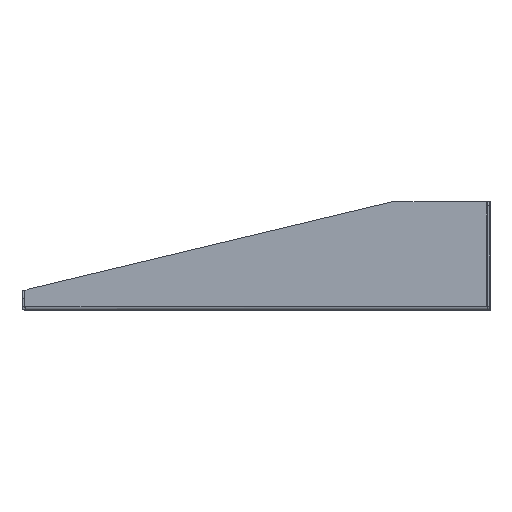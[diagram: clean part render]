
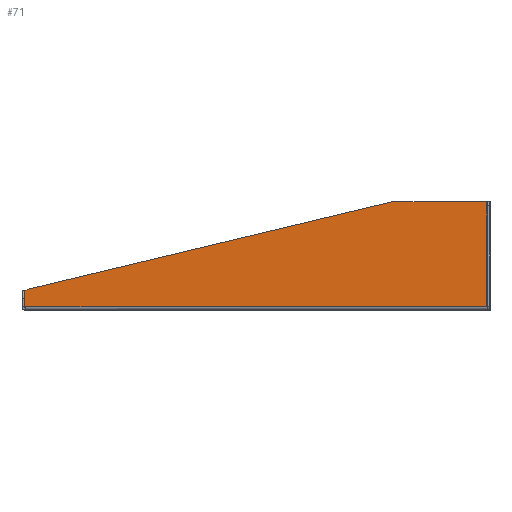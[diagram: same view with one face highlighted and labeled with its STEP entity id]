
A CAD part, left-side view. The second image highlights one B-rep face of the part: STEP entity #71.
In plain terms, the highlighted planar face has unit normal (-1, 0, 0).
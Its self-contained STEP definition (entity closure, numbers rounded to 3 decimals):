
#71 = ADVANCED_FACE( '', ( #925 ), #926, .T. );
#925 = FACE_OUTER_BOUND( '', #2423, .T. );
#926 = PLANE( '', #2424 );
#2423 = EDGE_LOOP( '', ( #4779, #4780, #4781, #4782, #4783, #4784, #4785, #4786 ) );
#2424 = AXIS2_PLACEMENT_3D( '', #4787, #4788, #4789 );
#4779 = ORIENTED_EDGE( '', *, *, #9820, .T. );
#4780 = ORIENTED_EDGE( '', *, *, #9827, .T. );
#4781 = ORIENTED_EDGE( '', *, *, #9828, .F. );
#4782 = ORIENTED_EDGE( '', *, *, #9829, .F. );
#4783 = ORIENTED_EDGE( '', *, *, #9830, .T. );
#4784 = ORIENTED_EDGE( '', *, *, #9831, .F. );
#4785 = ORIENTED_EDGE( '', *, *, #9832, .T. );
#4786 = ORIENTED_EDGE( '', *, *, #9818, .T. );
#4787 = CARTESIAN_POINT( '', ( -222.25, 189.586, 1.587 ) );
#4788 = DIRECTION( '', ( -1., 0., 0. ) );
#4789 = DIRECTION( '', ( 0., 0., 1. ) );
#9818 = EDGE_CURVE( '', #12558, #12556, #12559, .T. );
#9820 = EDGE_CURVE( '', #12556, #12535, #12561, .T. );
#9827 = EDGE_CURVE( '', #12535, #12519, #12571, .T. );
#9828 = EDGE_CURVE( '', #12572, #12519, #12573, .T. );
#9829 = EDGE_CURVE( '', #12574, #12572, #12575, .T. );
#9830 = EDGE_CURVE( '', #12574, #12576, #12577, .T. );
#9831 = EDGE_CURVE( '', #12578, #12576, #12579, .T. );
#9832 = EDGE_CURVE( '', #12578, #12558, #12580, .F. );
#12519 = VERTEX_POINT( '', #15921 );
#12535 = VERTEX_POINT( '', #15947 );
#12556 = VERTEX_POINT( '', #16010 );
#12558 = VERTEX_POINT( '', #16013 );
#12559 = LINE( '', #16014, #16015 );
#12561 = CIRCLE( '', #16018, 1.397 );
#12571 = LINE( '', #16063, #16064 );
#12572 = VERTEX_POINT( '', #16065 );
#12573 = LINE( '', #16066, #16067 );
#12574 = VERTEX_POINT( '', #16068 );
#12575 = LINE( '', #16069, #16070 );
#12576 = VERTEX_POINT( '', #16071 );
#12577 = LINE( '', #16072, #16073 );
#12578 = VERTEX_POINT( '', #16074 );
#12579 = LINE( '', #16075, #16076 );
#12580 = LINE( '', #16077, #16078 );
#15921 = CARTESIAN_POINT( '', ( -222.25, -188.671, 2.743 ) );
#15947 = CARTESIAN_POINT( '', ( -222.25, 187.214, 2.743 ) );
#16010 = CARTESIAN_POINT( '', ( -222.25, 187.755, 2.963 ) );
#16013 = CARTESIAN_POINT( '', ( -222.25, 187.755, 14.531 ) );
#16014 = CARTESIAN_POINT( '', ( -222.25, 187.755, 88.087 ) );
#16015 = VECTOR( '', #19510, 1000. );
#16018 = AXIS2_PLACEMENT_3D( '', #19512, #19513, #19514 );
#16063 = CARTESIAN_POINT( '', ( -222.25, 189.586, 2.743 ) );
#16064 = VECTOR( '', #19525, 1000. );
#16065 = CARTESIAN_POINT( '', ( -222.25, -188.671, 2.745 ) );
#16066 = CARTESIAN_POINT( '', ( -222.25, -188.671, 2.745 ) );
#16067 = VECTOR( '', #19526, 1000. );
#16068 = CARTESIAN_POINT( '', ( -222.25, -188.671, 88.087 ) );
#16069 = CARTESIAN_POINT( '', ( -222.25, -188.671, 2.745 ) );
#16070 = VECTOR( '', #19527, 1000. );
#16071 = CARTESIAN_POINT( '', ( -222.25, -111.481, 88.087 ) );
#16072 = CARTESIAN_POINT( '', ( -222.25, -189.586, 88.087 ) );
#16073 = VECTOR( '', #19528, 1000. );
#16074 = CARTESIAN_POINT( '', ( -222.25, 185.409, 16.877 ) );
#16075 = CARTESIAN_POINT( '', ( -222.25, 192.826, 15.098 ) );
#16076 = VECTOR( '', #19529, 1000. );
#16077 = CARTESIAN_POINT( '', ( -222.25, 195.142, 7.144 ) );
#16078 = VECTOR( '', #19530, 1000. );
#19510 = DIRECTION( '', ( 0., 0., -1. ) );
#19512 = CARTESIAN_POINT( '', ( -222.25, 187.998, 1.587 ) );
#19513 = DIRECTION( '', ( 1., 0., 0. ) );
#19514 = DIRECTION( '', ( 0., 1., 0. ) );
#19525 = DIRECTION( '', ( 0., -1., 0. ) );
#19526 = DIRECTION( '', ( 0., 0., -1. ) );
#19527 = DIRECTION( '', ( 0., 0., -1. ) );
#19528 = DIRECTION( '', ( 0., 1., 0. ) );
#19529 = DIRECTION( '', ( 0., -0.972, 0.233 ) );
#19530 = DIRECTION( '', ( 0., -0.707, 0.707 ) );
